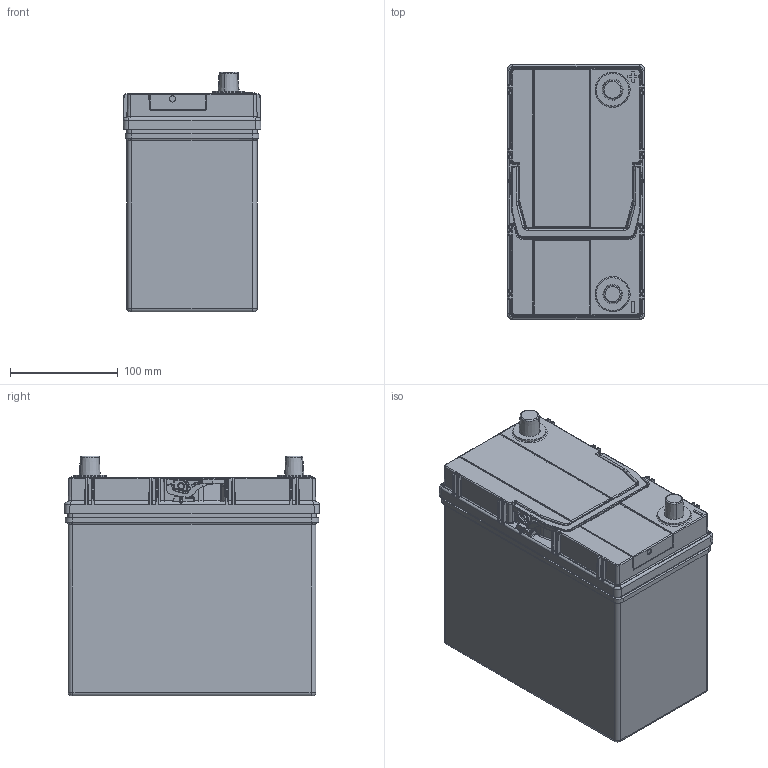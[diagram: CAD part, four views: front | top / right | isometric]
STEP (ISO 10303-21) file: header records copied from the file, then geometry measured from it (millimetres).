
FILE_DESCRIPTION(('CATIA V5 STEP Exchange'),'2;1');
FILE_NAME('C:\Users\bxus\OneDrive - Clarios\BZ PLANT\3D MODEL\PMV B24\PMV B24LS.stp','2022-05-19T14:55:53+00:00',('none'),('none'),'CATIA Version 5-6 Release 2017','CATIA V5 STEP AP203','none');
FILE_SCHEMA(('CONFIG_CONTROL_DESIGN'));
Products named in the file (1): PMV B24 LS
Bounding box: 128 x 237 x 222.5 mm (x, y, z)
Volume: 5630530.7 mm3; surface area: 247140 mm2
Topology: 1 solids, 1 shells, 3030 faces, 7725 edges, 4471 vertices
Faces by surface type: cylinder 1097, plane 921, bspline 784, cone 80, sphere 74, torus 60, revolution 14
Entity records: 128435 total; most frequent: CARTESIAN_POINT 69948, ORIENTED_EDGE 14772, EDGE_CURVE 7386, DIRECTION 7358, VERTEX_POINT 4471, VECTOR 3156, LINE 3156, EDGE_LOOP 3147
